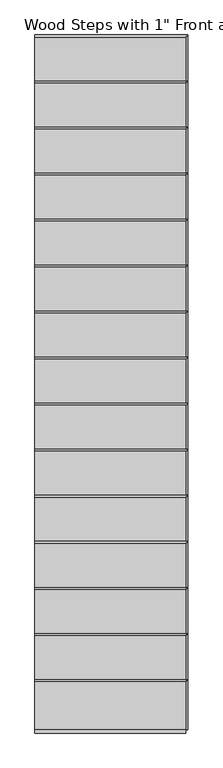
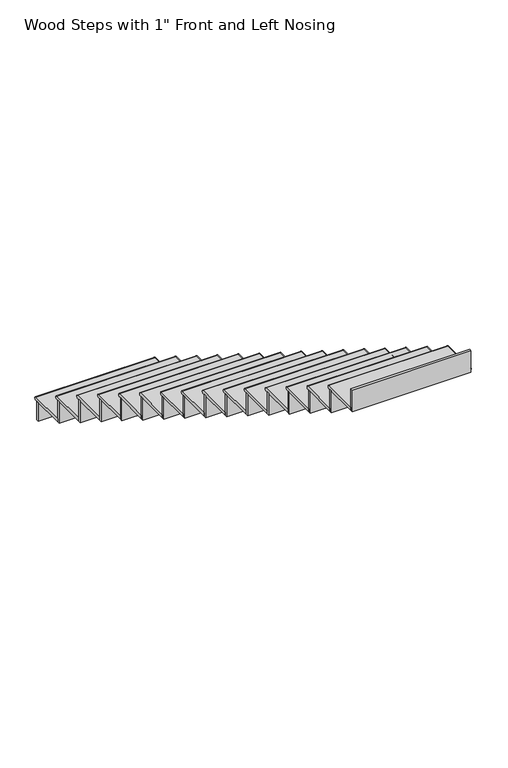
"""IFC4 building model written with IfcOpenShell, lengths in millimetres: stair flight geometry."""

import ifcopenshell
import ifcopenshell.guid

model = None  # the IFC model being written
_history = None  # IfcOwnerHistory: only IFC2X3 demands one
_inside = {}  # id of a spatial element -> (the spatial element, [elements in it])
_under = {}  # id of a project, library or spatial element -> (it, [spatial elements below it])
_declared = {}  # id of a project -> (the project, [libraries it declares])
_typed = {}  # id of a type object -> (the type object, [elements of that type])
_made_of = {}  # id of a material, layer set ... -> (it, [elements and type objects made of it])


def new_model(schema):
    """Start an empty IFC model of exactly this schema.

    Asked for "IFC4X3", IfcOpenShell would pick the latest addendum, in which some entities
    have other attributes; the version numbers below select the first issue.
    IFC2X3 requires an IfcOwnerHistory on every rooted entity: one is made here for all.
    """
    global model, _history
    if schema == "IFC4X3":
        model = ifcopenshell.file(schema_version=(4, 3, 0, 0))
    else:
        model = ifcopenshell.file(schema=schema)
    _inside.clear()
    _under.clear()
    _declared.clear()
    _typed.clear()
    _made_of.clear()
    _history = None
    if model.schema == "IFC2X3":
        org = make("IfcOrganization", Name="unknown")
        user = make(
            "IfcPersonAndOrganization",
            ThePerson=make("IfcPerson", FamilyName="unknown"),
            TheOrganization=org,
        )
        app = make(
            "IfcApplication",
            ApplicationDeveloper=org,
            Version="unknown",
            ApplicationFullName="unknown",
            ApplicationIdentifier="unknown",
        )
        _history = make(
            "IfcOwnerHistory",
            OwningUser=user,
            OwningApplication=app,
            ChangeAction="ADDED",
            CreationDate=0,
        )
    return model


def make(cls, **values):
    """One entity of the class cls with the attributes given. An attribute that is None is left unset."""
    return model.create_entity(
        cls, **{name: value for name, value in values.items() if value is not None}
    )


def rooted(cls, **values):
    """An entity with a GlobalId (a new one), such as an element, a storey or a relation."""
    return make(cls, GlobalId=ifcopenshell.guid.new(), OwnerHistory=_history, **values)


def si_unit(unit_type, name, prefix=None):
    """IfcSIUnit, for example si_unit("LENGTHUNIT", "METRE", prefix="MILLI")."""
    return make("IfcSIUnit", UnitType=unit_type, Prefix=prefix, Name=name)


def assignment(units):
    """IfcUnitAssignment: the units of a project."""
    return None if units is None else make("IfcUnitAssignment", Units=units)


def point(xyz):
    """IfcCartesianPoint."""
    return None if xyz is None else make("IfcCartesianPoint", Coordinates=xyz)


def direction(xyz):
    """IfcDirection."""
    return None if xyz is None else make("IfcDirection", DirectionRatios=xyz)


def frame(location, z_axis=None, x_axis=None):
    """IfcAxis2Placement3D, a coordinate frame: its origin and axes. An axis left out is left unset."""
    return make(
        "IfcAxis2Placement3D",
        Location=point(location),
        Axis=direction(z_axis),
        RefDirection=direction(x_axis),
    )


def origin():
    """The frame at (0, 0, 0) with its axes left unset."""
    return frame((0.0, 0.0, 0.0))


def place(relative_to, where):
    """IfcLocalPlacement: puts the frame where relative to a parent placement (None: the world)."""
    return make(
        "IfcLocalPlacement", PlacementRelTo=relative_to, RelativePlacement=where
    )


def context(
    kind, dimensions, precision=None, world=None, true_north=None, identifier=None
):
    """IfcGeometricRepresentationContext, for example the 3D "Model" context."""
    return make(
        "IfcGeometricRepresentationContext",
        ContextIdentifier=identifier,
        ContextType=kind,
        CoordinateSpaceDimension=dimensions,
        Precision=precision,
        WorldCoordinateSystem=world,
        TrueNorth=true_north,
    )


def project(units=None, contexts=None):
    """IfcProject with its units and contexts."""
    return rooted(
        "IfcProject",
        Name="project",
        RepresentationContexts=contexts,
        UnitsInContext=assignment(units),
    )


def spatial(cls, under=None, at=None, **own):
    """A site, building, storey or space (cls), placed at a placement, below another one or the project."""
    s = rooted(cls, ObjectPlacement=at, **own)
    if under is not None:
        _under.setdefault(under.id(), (under, []))[1].append(s)
    return s


def circle_curve(where, radius):
    """IfcCircle in the frame where."""
    return make("IfcCircle", Position=where, Radius=radius)


def ellipse_curve(where, semi_axis1, semi_axis2):
    """IfcEllipse in the frame where."""
    return make(
        "IfcEllipse", Position=where, SemiAxis1=semi_axis1, SemiAxis2=semi_axis2
    )


def faces_of(points, faces, orient=None, outer=None):
    """IfcFace entities. A face is a list of loops; a loop is a list of indices into points, from 0.

    orient and outer hold one flag for each loop. By default every Orientation is true, the
    first loop of a face is its IfcFaceOuterBound and the others are IfcFaceBound.
    """
    made = []
    for i, loops in enumerate(faces):
        bounds = []
        for j, loop in enumerate(loops):
            is_outer = j == 0 if outer is None else outer[i][j]
            bounds.append(
                make(
                    "IfcFaceOuterBound" if is_outer else "IfcFaceBound",
                    Bound=make("IfcPolyLoop", Polygon=[points[k] for k in loop]),
                    Orientation=True if orient is None else orient[i][j],
                )
            )
        made.append(make("IfcFace", Bounds=bounds))
    return made


def faceted_brep(points, faces, orient=None, outer=None, voids=None):
    """IfcFacetedBrep: a solid bounded by flat faces; with voids (closed shells), ...WithVoids."""
    shared = [point(p) for p in points]
    hull = make("IfcClosedShell", CfsFaces=faces_of(shared, faces, orient, outer))
    if voids is None:
        return make("IfcFacetedBrep", Outer=hull)
    return make(
        "IfcFacetedBrepWithVoids",
        Outer=hull,
        Voids=[
            make(cls, CfsFaces=faces_of(shared, fs, o, b)) for cls, fs, o, b in voids
        ],
    )


def shape(context_of_items, identifier, shape_type, items):
    """IfcShapeRepresentation: the items that make up one representation, for example the "Body"."""
    return make(
        "IfcShapeRepresentation",
        ContextOfItems=context_of_items,
        RepresentationIdentifier=identifier,
        RepresentationType=shape_type,
        Items=items,
    )


def source(mapping_origin, context_of_items, identifier, shape_type, items):
    """IfcRepresentationMap: a shape defined once, which mapped items show again and again."""
    return make(
        "IfcRepresentationMap",
        MappingOrigin=mapping_origin,
        MappedRepresentation=shape(context_of_items, identifier, shape_type, items),
    )


def transform(
    local_origin,
    x_axis=None,
    y_axis=None,
    z_axis=None,
    scale=None,
    scale2=None,
    scale3=None,
    uniform=True,
):
    """IfcCartesianTransformationOperator3D, or its non-uniform kind. x_axis, y_axis, z_axis: its Axis1, 2, 3."""
    if uniform:
        return make(
            "IfcCartesianTransformationOperator3D",
            Axis1=direction(x_axis),
            Axis2=direction(y_axis),
            LocalOrigin=point(local_origin),
            Scale=scale,
            Axis3=direction(z_axis),
        )
    return make(
        "IfcCartesianTransformationOperator3DnonUniform",
        Axis1=direction(x_axis),
        Axis2=direction(y_axis),
        LocalOrigin=point(local_origin),
        Scale=scale,
        Axis3=direction(z_axis),
        Scale2=scale2,
        Scale3=scale3,
    )


def mapped(mapping_source, mapping_target):
    """IfcMappedItem: shows the shape of a source again, moved by a transform."""
    return make(
        "IfcMappedItem", MappingSource=mapping_source, MappingTarget=mapping_target
    )


def made_of(thing, what):
    """Note that an element or type object is made of a material, layer set ...; save() writes the relation."""
    if what is not None:
        _made_of.setdefault(what.id(), (what, []))[1].append(thing)
    return thing


def element(
    cls,
    number,
    at=None,
    inside=None,
    cuts=None,
    type_object=None,
    material=None,
    context=None,
    identifier="Body",
    shape_type=None,
    held_by="IfcProductDefinitionShape",
    body=None,
    shapes=None,
    **own,
):
    """One element of the class cls, such as IfcWall. Its Tag is "e" and its number.

    at: its placement. inside: the storey or other place that contains it. cuts: it is an
    opening in that element (IfcRelVoidsElement). A single representation is given by context,
    identifier, shape_type and body (its items); several are given by shapes. held_by: the class
    of the entity that holds the representations. save() writes the other relations.
    """
    e = rooted(cls, Tag="e%d" % number, ObjectPlacement=at, **own)
    if body is not None:
        shapes = [shape(context, identifier, shape_type, body)]
    if shapes is not None:
        e.Representation = make(held_by, Representations=shapes)
    if inside is not None:
        _inside.setdefault(inside.id(), (inside, []))[1].append(e)
    if cuts is not None:
        rooted(
            "IfcRelVoidsElement", RelatingBuildingElement=cuts, RelatedOpeningElement=e
        )
    if type_object is not None:
        _typed.setdefault(type_object.id(), (type_object, []))[1].append(e)
    return made_of(e, material)


def aggregate(whole, parts):
    """IfcRelAggregates: a whole, such as a stair, and the parts it consists of."""
    return rooted("IfcRelAggregates", RelatingObject=whole, RelatedObjects=parts)


def save(model, path):
    """Write the relations noted so far, then the file.

    IfcRelAggregates (storeys below a building ...), IfcRelContainedInSpatialStructure (elements
    in a storey), IfcRelDefinesByType, IfcRelAssociatesMaterial and IfcRelDeclares: one each for
    every whole, place, type object, material and project.
    """
    for whole, parts in _under.values():
        aggregate(whole, parts)
    for where, things in _inside.values():
        rooted(
            "IfcRelContainedInSpatialStructure",
            RelatedElements=things,
            RelatingStructure=where,
        )
    for kind, things in _typed.values():
        rooted("IfcRelDefinesByType", RelatedObjects=things, RelatingType=kind)
    for what, things in _made_of.values():
        rooted("IfcRelAssociatesMaterial", RelatedObjects=things, RelatingMaterial=what)
    for by, libraries in _declared.values():
        rooted("IfcRelDeclares", RelatingContext=by, RelatedDefinitions=libraries)
    model.write(path)


def plane_surface(at):
    """IfcPlane: the flat surface through the origin of the frame at, square to its z axis."""
    return make("IfcPlane", Position=at)


def cylinder_surface(at, radius):
    """IfcCylindricalSurface: all points at the distance radius from the z axis of the frame at."""
    return make("IfcCylindricalSurface", Position=at, Radius=radius)


def advanced_brep(points, edges, surfaces, faces):
    """IfcAdvancedBrep: a solid bounded by faces that lie on surfaces and meet in shared edges.

    An edge is (start, end): straight between two places in points (the first is 0);
    or (start, end, curve); or (start, end, curve, False) where it runs against its curve.
    A face is (place in surfaces, loops), or (place, loops, False) where it looks against
    its surface's normal. A loop lists edges by number (the first is 1), with a minus sign
    where the edge is run from its end to its start. The first loop is the outer one.
    """
    corners = [point(p) for p in points]
    vertices = [make("IfcVertexPoint", VertexGeometry=c) for c in corners]
    made = []
    for start, end, *more in edges:
        made.append(
            make(
                "IfcEdgeCurve",
                EdgeStart=vertices[start],
                EdgeEnd=vertices[end],
                EdgeGeometry=more[0] if more else make("IfcPolyline", Points=[corners[start], corners[end]]),
                SameSense=more[1] if len(more) > 1 else True,
            )
        )
    hull = []
    for where, loops, *sense in faces:
        bounds = []
        for j, loop in enumerate(loops):
            ring = [make("IfcOrientedEdge", EdgeElement=made[abs(k) - 1], Orientation=k > 0) for k in loop]
            bounds.append(
                make(
                    "IfcFaceOuterBound" if j == 0 else "IfcFaceBound",
                    Bound=make("IfcEdgeLoop", EdgeList=ring),
                    Orientation=True,
                )
            )
        hull.append(make("IfcAdvancedFace", Bounds=bounds, FaceSurface=surfaces[where], SameSense=sense[0] if sense else True))
    return make("IfcAdvancedBrep", Outer=make("IfcClosedShell", CfsFaces=hull))


def stair_flight_b54795dc(model_context):
    return source(origin(), model_context, "Body", "SolidModel", [
        advanced_brep(
        [(-6227.1730992, 2449.2922697, -2668.5875), (-6227.1730992, 2449.2922697, -2643.1875), (-5312.7730992, 2449.2922697, -2643.1875), (-5312.7730992, 2449.2922697, -2668.5875), (-6227.1730992, 2157.1922697, -2643.1875), (-5312.7730992, 2157.1922697, -2643.1875), (-6227.1730992, 2157.1922697, -2668.5875), (-5312.7730992, 2157.1922697, -2668.5875)],
        [
            (0, 1, circle_curve(frame((-6227.1730992, 2449.2922697, -2655.8875), z_axis=(1.0, 0.0, 0.0), x_axis=(0.0, -1.0, 0.0)), 12.7)),
            (1, 2),
            (2, 3, ellipse_curve(frame((-5312.7730992, 2449.2922697, -2655.8875), z_axis=(-0.7071067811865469, 0.707106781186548, 0.0), x_axis=(-0.7071067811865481, -0.7071067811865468, 0.0)), 17.9605122, 12.7)),
            (3, 0),
            (1, 4),
            (4, 5),
            (5, 2),
            (6, 0),
            (3, 7),
            (7, 6),
            (6, 4),
            (7, 5, circle_curve(frame((-5312.7730992, 2157.1922697, -2655.8875), z_axis=(0.0, -1.0, 0.0), x_axis=(-1.0, 0.0, 0.0)), 12.7)),
        ],
        [
            cylinder_surface(frame((-6227.1730992, 2449.2922697, -2655.8875), z_axis=(-1.0, 0.0, 0.0), x_axis=(0.0, -1.0, 0.0)), 12.7),
            plane_surface(frame((-5312.7730992, 2461.9922697, -2643.1875), z_axis=(0.0, 0.0, 1.0), x_axis=(0.0, 1.0, 0.0))),
            plane_surface(frame((-5312.7730992, 2461.9922697, -2668.5875), z_axis=(0.0, 0.0, -1.0), x_axis=(0.0, -1.0, 0.0))),
            plane_surface(frame((-6227.1730992, 2449.2922697, -2643.1875), z_axis=(-1.0, 0.0, 0.0), x_axis=(0.0, 0.0, -1.0))),
            plane_surface(frame((-6227.1730992, 2157.1922697, -2643.1875), z_axis=(0.0, -1.0, 0.0), x_axis=(0.0, 0.0, -1.0))),
            cylinder_surface(frame((-5312.7730992, 2449.2922697, -2655.8875), z_axis=(0.0, 1.0, 0.0), x_axis=(-1.0, 0.0, 0.0)), 12.7),
        ],
        [
            (0, [[1, 2, 3, 4]]),
            (1, [[5, 6, 7, -2]]),
            (2, [[8, -4, 9, 10]]),
            (3, [[-5, -1, -8, 11]]),
            (4, [[-6, -11, -10, 12]]),
            (5, [[-3, -7, -12, -9]]),
        ],
    ),
        faceted_brep([(-6227.1730992, 2436.5922697, -2668.5875), (-6227.1730992, 2436.5922697, -2819.4), (-6227.1730992, 2417.5422697, -2819.4), (-6227.1730992, 2417.5422697, -2668.5875), (-5312.7730992, 2436.5922697, -2668.5875), (-5312.7730992, 2417.5422697, -2668.5875), (-5312.7730992, 2417.5422697, -2819.4), (-5312.7730992, 2436.5922697, -2819.4)], [[[0, 1, 2, 3]], [[4, 5, 6, 7]], [[1, 0, 4, 7]], [[2, 1, 7, 6]], [[3, 2, 6, 5]], [[0, 3, 5, 4]]]),
        faceted_brep([(-6227.1730992, 2157.1922697, -2492.375), (-6227.1730992, 2157.1922697, -2668.5875), (-6227.1730992, 2138.1422697, -2668.5875), (-6227.1730992, 2138.1422697, -2492.375), (-5312.7730992, 2157.1922697, -2492.375), (-5312.7730992, 2138.1422697, -2492.375), (-5312.7730992, 2138.1422697, -2668.5875), (-5312.7730992, 2157.1922697, -2668.5875)], [[[0, 1, 2, 3]], [[4, 5, 6, 7]], [[1, 0, 4, 7]], [[2, 1, 7, 6]], [[3, 2, 6, 5]], [[0, 3, 5, 4]]]),
        advanced_brep(
        [(-6227.1730992, 2169.8922697, -2466.975), (-6227.1730992, 1877.7922697, -2466.975), (-5312.7730992, 1877.7922697, -2466.975), (-5312.7730992, 2169.8922697, -2466.975), (-6227.1730992, 1877.7922697, -2492.375), (-6227.1730992, 2169.8922697, -2492.375), (-5312.7730992, 2169.8922697, -2492.375), (-5312.7730992, 1877.7922697, -2492.375)],
        [
            (0, 1),
            (1, 2),
            (2, 3),
            (3, 0),
            (4, 5),
            (5, 6),
            (6, 7),
            (7, 4),
            (1, 4),
            (7, 2, circle_curve(frame((-5312.7730992, 1877.7922697, -2479.675), z_axis=(0.0, -1.0, 0.0), x_axis=(-1.0, 0.0, 0.0)), 12.7)),
            (5, 0, circle_curve(frame((-6227.1730992, 2169.8922697, -2479.675), z_axis=(1.0, 0.0, 0.0), x_axis=(0.0, -1.0, 0.0)), 12.7)),
            (3, 6, ellipse_curve(frame((-5312.7730992, 2169.8922697, -2479.675), z_axis=(-0.7071067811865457, 0.7071067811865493, 0.0), x_axis=(-0.7071067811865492, -0.7071067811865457, 0.0)), 17.9605122, 12.7)),
        ],
        [
            plane_surface(frame((-5312.7730992, 2461.9922697, -2466.975), z_axis=(0.0, 0.0, 1.0), x_axis=(0.0, 1.0, 0.0))),
            plane_surface(frame((-5312.7730992, 2461.9922697, -2492.375), z_axis=(0.0, 0.0, -1.0), x_axis=(0.0, -1.0, 0.0))),
            plane_surface(frame((-6227.1730992, 1877.7922697, -2466.975), z_axis=(0.0, -1.0, 0.0), x_axis=(0.0, 0.0, -1.0))),
            cylinder_surface(frame((-6227.1730992, 2169.8922697, -2479.675), z_axis=(-1.0, 0.0, 0.0), x_axis=(0.0, -1.0, 0.0)), 12.7),
            cylinder_surface(frame((-5312.7730992, 2169.8922697, -2479.675), z_axis=(0.0, 1.0, 0.0), x_axis=(-1.0, 0.0, 0.0)), 12.7),
            plane_surface(frame((-6227.1730992, 2169.8922697, -2466.975), z_axis=(-1.0, 0.0, 0.0), x_axis=(0.0, 0.0, -1.0))),
        ],
        [
            (0, [[1, 2, 3, 4]]),
            (1, [[5, 6, 7, 8]]),
            (2, [[-2, 9, -8, 10]]),
            (3, [[11, -4, 12, -6]]),
            (4, [[-12, -3, -10, -7]]),
            (5, [[-1, -11, -5, -9]]),
        ],
    ),
        faceted_brep([(-6227.1730992, 1877.7922697, -2316.1625), (-6227.1730992, 1877.7922697, -2492.375), (-6227.1730992, 1858.7422697, -2492.375), (-6227.1730992, 1858.7422697, -2316.1625), (-5312.7730992, 1877.7922697, -2316.1625), (-5312.7730992, 1858.7422697, -2316.1625), (-5312.7730992, 1858.7422697, -2492.375), (-5312.7730992, 1877.7922697, -2492.375)], [[[0, 1, 2, 3]], [[4, 5, 6, 7]], [[1, 0, 4, 7]], [[2, 1, 7, 6]], [[3, 2, 6, 5]], [[0, 3, 5, 4]]]),
        advanced_brep(
        [(-6227.1730992, 1890.4922697, -2290.7625), (-6227.1730992, 1598.3922697, -2290.7625), (-5312.7730992, 1598.3922697, -2290.7625), (-5312.7730992, 1890.4922697, -2290.7625), (-6227.1730992, 1598.3922697, -2316.1625), (-6227.1730992, 1890.4922697, -2316.1625), (-5312.7730992, 1890.4922697, -2316.1625), (-5312.7730992, 1598.3922697, -2316.1625)],
        [
            (0, 1),
            (1, 2),
            (2, 3),
            (3, 0),
            (4, 5),
            (5, 6),
            (6, 7),
            (7, 4),
            (1, 4),
            (7, 2, circle_curve(frame((-5312.7730992, 1598.3922697, -2303.4625), z_axis=(0.0, -1.0, 0.0), x_axis=(-1.0, 0.0, 0.0)), 12.7)),
            (5, 0, circle_curve(frame((-6227.1730992, 1890.4922697, -2303.4625), z_axis=(1.0, 0.0, 0.0), x_axis=(0.0, -1.0, 0.0)), 12.7)),
            (3, 6, ellipse_curve(frame((-5312.7730992, 1890.4922697, -2303.4625), z_axis=(-0.7071067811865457, 0.7071067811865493, 0.0), x_axis=(-0.7071067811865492, -0.7071067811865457, 0.0)), 17.9605122, 12.7)),
        ],
        [
            plane_surface(frame((-5312.7730992, 2182.5922697, -2290.7625), z_axis=(0.0, 0.0, 1.0), x_axis=(0.0, 1.0, 0.0))),
            plane_surface(frame((-5312.7730992, 2182.5922697, -2316.1625), z_axis=(0.0, 0.0, -1.0), x_axis=(0.0, -1.0, 0.0))),
            plane_surface(frame((-6227.1730992, 1598.3922697, -2290.7625), z_axis=(0.0, -1.0, 0.0), x_axis=(0.0, 0.0, -1.0))),
            cylinder_surface(frame((-6227.1730992, 1890.4922697, -2303.4625), z_axis=(-1.0, 0.0, 0.0), x_axis=(0.0, -1.0, 0.0)), 12.7),
            cylinder_surface(frame((-5312.7730992, 1890.4922697, -2303.4625), z_axis=(0.0, 1.0, 0.0), x_axis=(-1.0, 0.0, 0.0)), 12.7),
            plane_surface(frame((-6227.1730992, 1890.4922697, -2290.7625), z_axis=(-1.0, 0.0, 0.0), x_axis=(0.0, 0.0, -1.0))),
        ],
        [
            (0, [[1, 2, 3, 4]]),
            (1, [[5, 6, 7, 8]]),
            (2, [[-2, 9, -8, 10]]),
            (3, [[11, -4, 12, -6]]),
            (4, [[-12, -3, -10, -7]]),
            (5, [[-1, -11, -5, -9]]),
        ],
    ),
        faceted_brep([(-6227.1730992, 1598.3922697, -2139.95), (-6227.1730992, 1598.3922697, -2316.1625), (-6227.1730992, 1579.3422697, -2316.1625), (-6227.1730992, 1579.3422697, -2139.95), (-5312.7730992, 1598.3922697, -2139.95), (-5312.7730992, 1579.3422697, -2139.95), (-5312.7730992, 1579.3422697, -2316.1625), (-5312.7730992, 1598.3922697, -2316.1625)], [[[0, 1, 2, 3]], [[4, 5, 6, 7]], [[1, 0, 4, 7]], [[2, 1, 7, 6]], [[3, 2, 6, 5]], [[0, 3, 5, 4]]]),
        advanced_brep(
        [(-6227.1730992, 1611.0922697, -2114.55), (-6227.1730992, 1318.9922697, -2114.55), (-5312.7730992, 1318.9922697, -2114.55), (-5312.7730992, 1611.0922697, -2114.55), (-6227.1730992, 1318.9922697, -2139.95), (-6227.1730992, 1611.0922697, -2139.95), (-5312.7730992, 1611.0922697, -2139.95), (-5312.7730992, 1318.9922697, -2139.95)],
        [
            (0, 1),
            (1, 2),
            (2, 3),
            (3, 0),
            (4, 5),
            (5, 6),
            (6, 7),
            (7, 4),
            (1, 4),
            (7, 2, circle_curve(frame((-5312.7730992, 1318.9922697, -2127.25), z_axis=(0.0, -1.0, 0.0), x_axis=(-1.0, 0.0, 0.0)), 12.7)),
            (5, 0, circle_curve(frame((-6227.1730992, 1611.0922697, -2127.25), z_axis=(1.0, 0.0, 0.0), x_axis=(0.0, -1.0, 0.0)), 12.7)),
            (3, 6, ellipse_curve(frame((-5312.7730992, 1611.0922697, -2127.25), z_axis=(-0.7071067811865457, 0.7071067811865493, 0.0), x_axis=(-0.7071067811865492, -0.7071067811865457, 0.0)), 17.9605122, 12.7)),
        ],
        [
            plane_surface(frame((-5312.7730992, 1903.1922697, -2114.55), z_axis=(0.0, 0.0, 1.0), x_axis=(0.0, 1.0, 0.0))),
            plane_surface(frame((-5312.7730992, 1903.1922697, -2139.95), z_axis=(0.0, 0.0, -1.0), x_axis=(0.0, -1.0, 0.0))),
            plane_surface(frame((-6227.1730992, 1318.9922697, -2114.55), z_axis=(0.0, -1.0, 0.0), x_axis=(0.0, 0.0, -1.0))),
            cylinder_surface(frame((-6227.1730992, 1611.0922697, -2127.25), z_axis=(-1.0, 0.0, 0.0), x_axis=(0.0, -1.0, 0.0)), 12.7),
            cylinder_surface(frame((-5312.7730992, 1611.0922697, -2127.25), z_axis=(0.0, 1.0, 0.0), x_axis=(-1.0, 0.0, 0.0)), 12.7),
            plane_surface(frame((-6227.1730992, 1611.0922697, -2114.55), z_axis=(-1.0, 0.0, 0.0), x_axis=(0.0, 0.0, -1.0))),
        ],
        [
            (0, [[1, 2, 3, 4]]),
            (1, [[5, 6, 7, 8]]),
            (2, [[-2, 9, -8, 10]]),
            (3, [[11, -4, 12, -6]]),
            (4, [[-12, -3, -10, -7]]),
            (5, [[-1, -11, -5, -9]]),
        ],
    ),
        faceted_brep([(-6227.1730992, 1318.9922697, -1963.7375), (-6227.1730992, 1318.9922697, -2139.95), (-6227.1730992, 1299.9422697, -2139.95), (-6227.1730992, 1299.9422697, -1963.7375), (-5312.7730992, 1318.9922697, -1963.7375), (-5312.7730992, 1299.9422697, -1963.7375), (-5312.7730992, 1299.9422697, -2139.95), (-5312.7730992, 1318.9922697, -2139.95)], [[[0, 1, 2, 3]], [[4, 5, 6, 7]], [[1, 0, 4, 7]], [[2, 1, 7, 6]], [[3, 2, 6, 5]], [[0, 3, 5, 4]]]),
        advanced_brep(
        [(-6227.1730992, 1331.6922697, -1938.3375), (-6227.1730992, 1039.5922697, -1938.3375), (-5312.7730992, 1039.5922697, -1938.3375), (-5312.7730992, 1331.6922697, -1938.3375), (-6227.1730992, 1039.5922697, -1963.7375), (-6227.1730992, 1331.6922697, -1963.7375), (-5312.7730992, 1331.6922697, -1963.7375), (-5312.7730992, 1039.5922697, -1963.7375)],
        [
            (0, 1),
            (1, 2),
            (2, 3),
            (3, 0),
            (4, 5),
            (5, 6),
            (6, 7),
            (7, 4),
            (1, 4),
            (7, 2, circle_curve(frame((-5312.7730992, 1039.5922697, -1951.0375), z_axis=(0.0, -1.0, 0.0), x_axis=(-1.0, 0.0, 0.0)), 12.7)),
            (5, 0, circle_curve(frame((-6227.1730992, 1331.6922697, -1951.0375), z_axis=(1.0, 0.0, 0.0), x_axis=(0.0, -1.0, 0.0)), 12.7)),
            (3, 6, ellipse_curve(frame((-5312.7730992, 1331.6922697, -1951.0375), z_axis=(-0.7071067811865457, 0.7071067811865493, 0.0), x_axis=(-0.7071067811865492, -0.7071067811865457, 0.0)), 17.9605122, 12.7)),
        ],
        [
            plane_surface(frame((-5312.7730992, 1623.7922697, -1938.3375), z_axis=(0.0, 0.0, 1.0), x_axis=(0.0, 1.0, 0.0))),
            plane_surface(frame((-5312.7730992, 1623.7922697, -1963.7375), z_axis=(0.0, 0.0, -1.0), x_axis=(0.0, -1.0, 0.0))),
            plane_surface(frame((-6227.1730992, 1039.5922697, -1938.3375), z_axis=(0.0, -1.0, 0.0), x_axis=(0.0, 0.0, -1.0))),
            cylinder_surface(frame((-6227.1730992, 1331.6922697, -1951.0375), z_axis=(-1.0, 0.0, 0.0), x_axis=(0.0, -1.0, 0.0)), 12.7),
            cylinder_surface(frame((-5312.7730992, 1331.6922697, -1951.0375), z_axis=(0.0, 1.0, 0.0), x_axis=(-1.0, 0.0, 0.0)), 12.7),
            plane_surface(frame((-6227.1730992, 1331.6922697, -1938.3375), z_axis=(-1.0, 0.0, 0.0), x_axis=(0.0, 0.0, -1.0))),
        ],
        [
            (0, [[1, 2, 3, 4]]),
            (1, [[5, 6, 7, 8]]),
            (2, [[-2, 9, -8, 10]]),
            (3, [[11, -4, 12, -6]]),
            (4, [[-12, -3, -10, -7]]),
            (5, [[-1, -11, -5, -9]]),
        ],
    ),
        faceted_brep([(-6227.1730992, 1039.5922697, -1787.525), (-6227.1730992, 1039.5922697, -1963.7375), (-6227.1730992, 1020.5422697, -1963.7375), (-6227.1730992, 1020.5422697, -1787.525), (-5312.7730992, 1039.5922697, -1787.525), (-5312.7730992, 1020.5422697, -1787.525), (-5312.7730992, 1020.5422697, -1963.7375), (-5312.7730992, 1039.5922697, -1963.7375)], [[[0, 1, 2, 3]], [[4, 5, 6, 7]], [[1, 0, 4, 7]], [[2, 1, 7, 6]], [[3, 2, 6, 5]], [[0, 3, 5, 4]]]),
        advanced_brep(
        [(-6227.1730992, 1052.2922697, -1762.125), (-6227.1730992, 760.1922697, -1762.125), (-5312.7730992, 760.1922697, -1762.125), (-5312.7730992, 1052.2922697, -1762.125), (-6227.1730992, 760.1922697, -1787.525), (-6227.1730992, 1052.2922697, -1787.525), (-5312.7730992, 1052.2922697, -1787.525), (-5312.7730992, 760.1922697, -1787.525)],
        [
            (0, 1),
            (1, 2),
            (2, 3),
            (3, 0),
            (4, 5),
            (5, 6),
            (6, 7),
            (7, 4),
            (1, 4),
            (7, 2, circle_curve(frame((-5312.7730992, 760.1922697, -1774.825), z_axis=(0.0, -1.0, 0.0), x_axis=(-1.0, 0.0, 0.0)), 12.7)),
            (5, 0, circle_curve(frame((-6227.1730992, 1052.2922697, -1774.825), z_axis=(1.0, 0.0, 0.0), x_axis=(0.0, -1.0, 0.0)), 12.7)),
            (3, 6, ellipse_curve(frame((-5312.7730992, 1052.2922697, -1774.825), z_axis=(-0.7071067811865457, 0.7071067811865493, 0.0), x_axis=(-0.7071067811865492, -0.7071067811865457, 0.0)), 17.9605122, 12.7)),
        ],
        [
            plane_surface(frame((-5312.7730992, 1344.3922697, -1762.125), z_axis=(0.0, 0.0, 1.0), x_axis=(0.0, 1.0, 0.0))),
            plane_surface(frame((-5312.7730992, 1344.3922697, -1787.525), z_axis=(0.0, 0.0, -1.0), x_axis=(0.0, -1.0, 0.0))),
            plane_surface(frame((-6227.1730992, 760.1922697, -1762.125), z_axis=(0.0, -1.0, 0.0), x_axis=(0.0, 0.0, -1.0))),
            cylinder_surface(frame((-6227.1730992, 1052.2922697, -1774.825), z_axis=(-1.0, 0.0, 0.0), x_axis=(0.0, -1.0, 0.0)), 12.7),
            cylinder_surface(frame((-5312.7730992, 1052.2922697, -1774.825), z_axis=(0.0, 1.0, 0.0), x_axis=(-1.0, 0.0, 0.0)), 12.7),
            plane_surface(frame((-6227.1730992, 1052.2922697, -1762.125), z_axis=(-1.0, 0.0, 0.0), x_axis=(0.0, 0.0, -1.0))),
        ],
        [
            (0, [[1, 2, 3, 4]]),
            (1, [[5, 6, 7, 8]]),
            (2, [[-2, 9, -8, 10]]),
            (3, [[11, -4, 12, -6]]),
            (4, [[-12, -3, -10, -7]]),
            (5, [[-1, -11, -5, -9]]),
        ],
    ),
        faceted_brep([(-6227.1730992, 760.1922697, -1611.3125), (-6227.1730992, 760.1922697, -1787.525), (-6227.1730992, 741.1422697, -1787.525), (-6227.1730992, 741.1422697, -1611.3125), (-5312.7730992, 760.1922697, -1611.3125), (-5312.7730992, 741.1422697, -1611.3125), (-5312.7730992, 741.1422697, -1787.525), (-5312.7730992, 760.1922697, -1787.525)], [[[0, 1, 2, 3]], [[4, 5, 6, 7]], [[1, 0, 4, 7]], [[2, 1, 7, 6]], [[3, 2, 6, 5]], [[0, 3, 5, 4]]]),
        advanced_brep(
        [(-6227.1730992, 772.8922697, -1585.9125), (-6227.1730992, 480.7922697, -1585.9125), (-5312.7730992, 480.7922697, -1585.9125), (-5312.7730992, 772.8922697, -1585.9125), (-6227.1730992, 480.7922697, -1611.3125), (-6227.1730992, 772.8922697, -1611.3125), (-5312.7730992, 772.8922697, -1611.3125), (-5312.7730992, 480.7922697, -1611.3125)],
        [
            (0, 1),
            (1, 2),
            (2, 3),
            (3, 0),
            (4, 5),
            (5, 6),
            (6, 7),
            (7, 4),
            (1, 4),
            (7, 2, circle_curve(frame((-5312.7730992, 480.7922697, -1598.6125), z_axis=(0.0, -1.0, 0.0), x_axis=(-1.0, 0.0, 0.0)), 12.7)),
            (5, 0, circle_curve(frame((-6227.1730992, 772.8922697, -1598.6125), z_axis=(1.0, 0.0, 0.0), x_axis=(0.0, -1.0, 0.0)), 12.7)),
            (3, 6, ellipse_curve(frame((-5312.7730992, 772.8922697, -1598.6125), z_axis=(-0.7071067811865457, 0.7071067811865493, 0.0), x_axis=(-0.7071067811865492, -0.7071067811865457, 0.0)), 17.9605122, 12.7)),
        ],
        [
            plane_surface(frame((-5312.7730992, 1064.9922697, -1585.9125), z_axis=(0.0, 0.0, 1.0), x_axis=(0.0, 1.0, 0.0))),
            plane_surface(frame((-5312.7730992, 1064.9922697, -1611.3125), z_axis=(0.0, 0.0, -1.0), x_axis=(0.0, -1.0, 0.0))),
            plane_surface(frame((-6227.1730992, 480.7922697, -1585.9125), z_axis=(0.0, -1.0, 0.0), x_axis=(0.0, 0.0, -1.0))),
            cylinder_surface(frame((-6227.1730992, 772.8922697, -1598.6125), z_axis=(-1.0, 0.0, 0.0), x_axis=(0.0, -1.0, 0.0)), 12.7),
            cylinder_surface(frame((-5312.7730992, 772.8922697, -1598.6125), z_axis=(0.0, 1.0, 0.0), x_axis=(-1.0, 0.0, 0.0)), 12.7),
            plane_surface(frame((-6227.1730992, 772.8922697, -1585.9125), z_axis=(-1.0, 0.0, 0.0), x_axis=(0.0, 0.0, -1.0))),
        ],
        [
            (0, [[1, 2, 3, 4]]),
            (1, [[5, 6, 7, 8]]),
            (2, [[-2, 9, -8, 10]]),
            (3, [[11, -4, 12, -6]]),
            (4, [[-12, -3, -10, -7]]),
            (5, [[-1, -11, -5, -9]]),
        ],
    ),
        faceted_brep([(-6227.1730992, 480.7922697, -1435.1), (-6227.1730992, 480.7922697, -1611.3125), (-6227.1730992, 461.7422697, -1611.3125), (-6227.1730992, 461.7422697, -1435.1), (-5312.7730992, 480.7922697, -1435.1), (-5312.7730992, 461.7422697, -1435.1), (-5312.7730992, 461.7422697, -1611.3125), (-5312.7730992, 480.7922697, -1611.3125)], [[[0, 1, 2, 3]], [[4, 5, 6, 7]], [[1, 0, 4, 7]], [[2, 1, 7, 6]], [[3, 2, 6, 5]], [[0, 3, 5, 4]]]),
        advanced_brep(
        [(-6227.1730992, 493.4922697, -1409.7), (-6227.1730992, 201.3922697, -1409.7), (-5312.7730992, 201.3922697, -1409.7), (-5312.7730992, 493.4922697, -1409.7), (-6227.1730992, 201.3922697, -1435.1), (-6227.1730992, 493.4922697, -1435.1), (-5312.7730992, 493.4922697, -1435.1), (-5312.7730992, 201.3922697, -1435.1)],
        [
            (0, 1),
            (1, 2),
            (2, 3),
            (3, 0),
            (4, 5),
            (5, 6),
            (6, 7),
            (7, 4),
            (1, 4),
            (7, 2, circle_curve(frame((-5312.7730992, 201.3922697, -1422.4), z_axis=(0.0, -1.0, 0.0), x_axis=(-1.0, 0.0, 0.0)), 12.7)),
            (5, 0, circle_curve(frame((-6227.1730992, 493.4922697, -1422.4), z_axis=(1.0, 0.0, 0.0), x_axis=(0.0, -1.0, 0.0)), 12.7)),
            (3, 6, ellipse_curve(frame((-5312.7730992, 493.4922697, -1422.4), z_axis=(-0.7071067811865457, 0.7071067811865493, 0.0), x_axis=(-0.7071067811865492, -0.7071067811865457, 0.0)), 17.9605122, 12.7)),
        ],
        [
            plane_surface(frame((-5312.7730992, 785.5922697, -1409.7), z_axis=(0.0, 0.0, 1.0), x_axis=(0.0, 1.0, 0.0))),
            plane_surface(frame((-5312.7730992, 785.5922697, -1435.1), z_axis=(0.0, 0.0, -1.0), x_axis=(0.0, -1.0, 0.0))),
            plane_surface(frame((-6227.1730992, 201.3922697, -1409.7), z_axis=(0.0, -1.0, 0.0), x_axis=(0.0, 0.0, -1.0))),
            cylinder_surface(frame((-6227.1730992, 493.4922697, -1422.4), z_axis=(-1.0, 0.0, 0.0), x_axis=(0.0, -1.0, 0.0)), 12.7),
            cylinder_surface(frame((-5312.7730992, 493.4922697, -1422.4), z_axis=(0.0, 1.0, 0.0), x_axis=(-1.0, 0.0, 0.0)), 12.7),
            plane_surface(frame((-6227.1730992, 493.4922697, -1409.7), z_axis=(-1.0, 0.0, 0.0), x_axis=(0.0, 0.0, -1.0))),
        ],
        [
            (0, [[1, 2, 3, 4]]),
            (1, [[5, 6, 7, 8]]),
            (2, [[-2, 9, -8, 10]]),
            (3, [[11, -4, 12, -6]]),
            (4, [[-12, -3, -10, -7]]),
            (5, [[-1, -11, -5, -9]]),
        ],
    ),
        faceted_brep([(-6227.1730992, 201.3922697, -1258.8875), (-6227.1730992, 201.3922697, -1435.1), (-6227.1730992, 182.3422697, -1435.1), (-6227.1730992, 182.3422697, -1258.8875), (-5312.7730992, 201.3922697, -1258.8875), (-5312.7730992, 182.3422697, -1258.8875), (-5312.7730992, 182.3422697, -1435.1), (-5312.7730992, 201.3922697, -1435.1)], [[[0, 1, 2, 3]], [[4, 5, 6, 7]], [[1, 0, 4, 7]], [[2, 1, 7, 6]], [[3, 2, 6, 5]], [[0, 3, 5, 4]]]),
        advanced_brep(
        [(-6227.1730992, 214.0922697, -1233.4875), (-6227.1730992, -78.0077303, -1233.4875), (-5312.7730992, -78.0077303, -1233.4875), (-5312.7730992, 214.0922697, -1233.4875), (-6227.1730992, -78.0077303, -1258.8875), (-6227.1730992, 214.0922697, -1258.8875), (-5312.7730992, 214.0922697, -1258.8875), (-5312.7730992, -78.0077303, -1258.8875)],
        [
            (0, 1),
            (1, 2),
            (2, 3),
            (3, 0),
            (4, 5),
            (5, 6),
            (6, 7),
            (7, 4),
            (1, 4),
            (7, 2, circle_curve(frame((-5312.7730992, -78.0077303, -1246.1875), z_axis=(0.0, -1.0, 0.0), x_axis=(-1.0, 0.0, 0.0)), 12.7)),
            (5, 0, circle_curve(frame((-6227.1730992, 214.0922697, -1246.1875), z_axis=(1.0, 0.0, 0.0), x_axis=(0.0, -1.0, 0.0)), 12.7)),
            (3, 6, ellipse_curve(frame((-5312.7730992, 214.0922697, -1246.1875), z_axis=(-0.7071067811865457, 0.7071067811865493, 0.0), x_axis=(-0.7071067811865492, -0.7071067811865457, 0.0)), 17.9605122, 12.7)),
        ],
        [
            plane_surface(frame((-5312.7730992, 506.1922697, -1233.4875), z_axis=(0.0, 0.0, 1.0), x_axis=(0.0, 1.0, 0.0))),
            plane_surface(frame((-5312.7730992, 506.1922697, -1258.8875), z_axis=(0.0, 0.0, -1.0), x_axis=(0.0, -1.0, 0.0))),
            plane_surface(frame((-6227.1730992, -78.0077303, -1233.4875), z_axis=(0.0, -1.0, 0.0), x_axis=(0.0, 0.0, -1.0))),
            cylinder_surface(frame((-6227.1730992, 214.0922697, -1246.1875), z_axis=(-1.0, 0.0, 0.0), x_axis=(0.0, -1.0, 0.0)), 12.7),
            cylinder_surface(frame((-5312.7730992, 214.0922697, -1246.1875), z_axis=(0.0, 1.0, 0.0), x_axis=(-1.0, 0.0, 0.0)), 12.7),
            plane_surface(frame((-6227.1730992, 214.0922697, -1233.4875), z_axis=(-1.0, 0.0, 0.0), x_axis=(0.0, 0.0, -1.0))),
        ],
        [
            (0, [[1, 2, 3, 4]]),
            (1, [[5, 6, 7, 8]]),
            (2, [[-2, 9, -8, 10]]),
            (3, [[11, -4, 12, -6]]),
            (4, [[-12, -3, -10, -7]]),
            (5, [[-1, -11, -5, -9]]),
        ],
    ),
        faceted_brep([(-6227.1730992, -78.0077303, -1082.675), (-6227.1730992, -78.0077303, -1258.8875), (-6227.1730992, -97.0577303, -1258.8875), (-6227.1730992, -97.0577303, -1082.675), (-5312.7730992, -78.0077303, -1082.675), (-5312.7730992, -97.0577303, -1082.675), (-5312.7730992, -97.0577303, -1258.8875), (-5312.7730992, -78.0077303, -1258.8875)], [[[0, 1, 2, 3]], [[4, 5, 6, 7]], [[1, 0, 4, 7]], [[2, 1, 7, 6]], [[3, 2, 6, 5]], [[0, 3, 5, 4]]]),
        advanced_brep(
        [(-6227.1730992, -65.3077303, -1057.275), (-6227.1730992, -357.4077303, -1057.275), (-5312.7730992, -357.4077303, -1057.275), (-5312.7730992, -65.3077303, -1057.275), (-6227.1730992, -357.4077303, -1082.675), (-6227.1730992, -65.3077303, -1082.675), (-5312.7730992, -65.3077303, -1082.675), (-5312.7730992, -357.4077303, -1082.675)],
        [
            (0, 1),
            (1, 2),
            (2, 3),
            (3, 0),
            (4, 5),
            (5, 6),
            (6, 7),
            (7, 4),
            (1, 4),
            (7, 2, circle_curve(frame((-5312.7730992, -357.4077303, -1069.975), z_axis=(0.0, -1.0, 0.0), x_axis=(-1.0, 0.0, 0.0)), 12.7)),
            (5, 0, circle_curve(frame((-6227.1730992, -65.3077303, -1069.975), z_axis=(1.0, 0.0, 0.0), x_axis=(0.0, -1.0, 0.0)), 12.7)),
            (3, 6, ellipse_curve(frame((-5312.7730992, -65.3077303, -1069.975), z_axis=(-0.7071067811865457, 0.7071067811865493, 0.0), x_axis=(-0.7071067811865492, -0.7071067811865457, 0.0)), 17.9605122, 12.7)),
        ],
        [
            plane_surface(frame((-5312.7730992, 226.7922697, -1057.275), z_axis=(0.0, 0.0, 1.0), x_axis=(0.0, 1.0, 0.0))),
            plane_surface(frame((-5312.7730992, 226.7922697, -1082.675), z_axis=(0.0, 0.0, -1.0), x_axis=(0.0, -1.0, 0.0))),
            plane_surface(frame((-6227.1730992, -357.4077303, -1057.275), z_axis=(0.0, -1.0, 0.0), x_axis=(0.0, 0.0, -1.0))),
            cylinder_surface(frame((-6227.1730992, -65.3077303, -1069.975), z_axis=(-1.0, 0.0, 0.0), x_axis=(0.0, -1.0, 0.0)), 12.7),
            cylinder_surface(frame((-5312.7730992, -65.3077303, -1069.975), z_axis=(0.0, 1.0, 0.0), x_axis=(-1.0, 0.0, 0.0)), 12.7),
            plane_surface(frame((-6227.1730992, -65.3077303, -1057.275), z_axis=(-1.0, 0.0, 0.0), x_axis=(0.0, 0.0, -1.0))),
        ],
        [
            (0, [[1, 2, 3, 4]]),
            (1, [[5, 6, 7, 8]]),
            (2, [[-2, 9, -8, 10]]),
            (3, [[11, -4, 12, -6]]),
            (4, [[-12, -3, -10, -7]]),
            (5, [[-1, -11, -5, -9]]),
        ],
    ),
        faceted_brep([(-6227.1730992, -357.4077303, -906.4625), (-6227.1730992, -357.4077303, -1082.675), (-6227.1730992, -376.4577303, -1082.675), (-6227.1730992, -376.4577303, -906.4625), (-5312.7730992, -357.4077303, -906.4625), (-5312.7730992, -376.4577303, -906.4625), (-5312.7730992, -376.4577303, -1082.675), (-5312.7730992, -357.4077303, -1082.675)], [[[0, 1, 2, 3]], [[4, 5, 6, 7]], [[1, 0, 4, 7]], [[2, 1, 7, 6]], [[3, 2, 6, 5]], [[0, 3, 5, 4]]]),
        advanced_brep(
        [(-6227.1730992, -344.7077303, -881.0625), (-6227.1730992, -636.8077303, -881.0625), (-5312.7730992, -636.8077303, -881.0625), (-5312.7730992, -344.7077303, -881.0625), (-6227.1730992, -636.8077303, -906.4625), (-6227.1730992, -344.7077303, -906.4625), (-5312.7730992, -344.7077303, -906.4625), (-5312.7730992, -636.8077303, -906.4625)],
        [
            (0, 1),
            (1, 2),
            (2, 3),
            (3, 0),
            (4, 5),
            (5, 6),
            (6, 7),
            (7, 4),
            (1, 4),
            (7, 2, circle_curve(frame((-5312.7730992, -636.8077303, -893.7625), z_axis=(0.0, -1.0, 0.0), x_axis=(-1.0, 0.0, 0.0)), 12.7)),
            (5, 0, circle_curve(frame((-6227.1730992, -344.7077303, -893.7625), z_axis=(1.0, 0.0, 0.0), x_axis=(0.0, -1.0, 0.0)), 12.7)),
            (3, 6, ellipse_curve(frame((-5312.7730992, -344.7077303, -893.7625), z_axis=(-0.7071067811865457, 0.7071067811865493, 0.0), x_axis=(-0.7071067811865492, -0.7071067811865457, 0.0)), 17.9605122, 12.7)),
        ],
        [
            plane_surface(frame((-5312.7730992, -52.6077303, -881.0625), z_axis=(0.0, 0.0, 1.0), x_axis=(0.0, 1.0, 0.0))),
            plane_surface(frame((-5312.7730992, -52.6077303, -906.4625), z_axis=(0.0, 0.0, -1.0), x_axis=(0.0, -1.0, 0.0))),
            plane_surface(frame((-6227.1730992, -636.8077303, -881.0625), z_axis=(0.0, -1.0, 0.0), x_axis=(0.0, 0.0, -1.0))),
            cylinder_surface(frame((-6227.1730992, -344.7077303, -893.7625), z_axis=(-1.0, 0.0, 0.0), x_axis=(0.0, -1.0, 0.0)), 12.7),
            cylinder_surface(frame((-5312.7730992, -344.7077303, -893.7625), z_axis=(0.0, 1.0, 0.0), x_axis=(-1.0, 0.0, 0.0)), 12.7),
            plane_surface(frame((-6227.1730992, -344.7077303, -881.0625), z_axis=(-1.0, 0.0, 0.0), x_axis=(0.0, 0.0, -1.0))),
        ],
        [
            (0, [[1, 2, 3, 4]]),
            (1, [[5, 6, 7, 8]]),
            (2, [[-2, 9, -8, 10]]),
            (3, [[11, -4, 12, -6]]),
            (4, [[-12, -3, -10, -7]]),
            (5, [[-1, -11, -5, -9]]),
        ],
    ),
        faceted_brep([(-6227.1730992, -636.8077303, -730.25), (-6227.1730992, -636.8077303, -906.4625), (-6227.1730992, -655.8577303, -906.4625), (-6227.1730992, -655.8577303, -730.25), (-5312.7730992, -636.8077303, -730.25), (-5312.7730992, -655.8577303, -730.25), (-5312.7730992, -655.8577303, -906.4625), (-5312.7730992, -636.8077303, -906.4625)], [[[0, 1, 2, 3]], [[4, 5, 6, 7]], [[1, 0, 4, 7]], [[2, 1, 7, 6]], [[3, 2, 6, 5]], [[0, 3, 5, 4]]]),
        advanced_brep(
        [(-6227.1730992, -624.1077303, -704.85), (-6227.1730992, -916.2077303, -704.85), (-5312.7730992, -916.2077303, -704.85), (-5312.7730992, -624.1077303, -704.85), (-6227.1730992, -916.2077303, -730.25), (-6227.1730992, -624.1077303, -730.25), (-5312.7730992, -624.1077303, -730.25), (-5312.7730992, -916.2077303, -730.25)],
        [
            (0, 1),
            (1, 2),
            (2, 3),
            (3, 0),
            (4, 5),
            (5, 6),
            (6, 7),
            (7, 4),
            (1, 4),
            (7, 2, circle_curve(frame((-5312.7730992, -916.2077303, -717.55), z_axis=(0.0, -1.0, 0.0), x_axis=(-1.0, 0.0, 0.0)), 12.7)),
            (5, 0, circle_curve(frame((-6227.1730992, -624.1077303, -717.55), z_axis=(1.0, 0.0, 0.0), x_axis=(0.0, -1.0, 0.0)), 12.7)),
            (3, 6, ellipse_curve(frame((-5312.7730992, -624.1077303, -717.55), z_axis=(-0.7071067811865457, 0.7071067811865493, 0.0), x_axis=(-0.7071067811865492, -0.7071067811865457, 0.0)), 17.9605122, 12.7)),
        ],
        [
            plane_surface(frame((-5312.7730992, -332.0077303, -704.85), z_axis=(0.0, 0.0, 1.0), x_axis=(0.0, 1.0, 0.0))),
            plane_surface(frame((-5312.7730992, -332.0077303, -730.25), z_axis=(0.0, 0.0, -1.0), x_axis=(0.0, -1.0, 0.0))),
            plane_surface(frame((-6227.1730992, -916.2077303, -704.85), z_axis=(0.0, -1.0, 0.0), x_axis=(0.0, 0.0, -1.0))),
            cylinder_surface(frame((-6227.1730992, -624.1077303, -717.55), z_axis=(-1.0, 0.0, 0.0), x_axis=(0.0, -1.0, 0.0)), 12.7),
            cylinder_surface(frame((-5312.7730992, -624.1077303, -717.55), z_axis=(0.0, 1.0, 0.0), x_axis=(-1.0, 0.0, 0.0)), 12.7),
            plane_surface(frame((-6227.1730992, -624.1077303, -704.85), z_axis=(-1.0, 0.0, 0.0), x_axis=(0.0, 0.0, -1.0))),
        ],
        [
            (0, [[1, 2, 3, 4]]),
            (1, [[5, 6, 7, 8]]),
            (2, [[-2, 9, -8, 10]]),
            (3, [[11, -4, 12, -6]]),
            (4, [[-12, -3, -10, -7]]),
            (5, [[-1, -11, -5, -9]]),
        ],
    ),
        faceted_brep([(-6227.1730992, -916.2077303, -554.0375), (-6227.1730992, -916.2077303, -730.25), (-6227.1730992, -935.2577303, -730.25), (-6227.1730992, -935.2577303, -554.0375), (-5312.7730992, -916.2077303, -554.0375), (-5312.7730992, -935.2577303, -554.0375), (-5312.7730992, -935.2577303, -730.25), (-5312.7730992, -916.2077303, -730.25)], [[[0, 1, 2, 3]], [[4, 5, 6, 7]], [[1, 0, 4, 7]], [[2, 1, 7, 6]], [[3, 2, 6, 5]], [[0, 3, 5, 4]]]),
        advanced_brep(
        [(-6227.1730992, -903.5077303, -528.6375), (-6227.1730992, -1195.6077303, -528.6375), (-5312.7730992, -1195.6077303, -528.6375), (-5312.7730992, -903.5077303, -528.6375), (-6227.1730992, -1195.6077303, -554.0375), (-6227.1730992, -903.5077303, -554.0375), (-5312.7730992, -903.5077303, -554.0375), (-5312.7730992, -1195.6077303, -554.0375)],
        [
            (0, 1),
            (1, 2),
            (2, 3),
            (3, 0),
            (4, 5),
            (5, 6),
            (6, 7),
            (7, 4),
            (1, 4),
            (7, 2, circle_curve(frame((-5312.7730992, -1195.6077303, -541.3375), z_axis=(0.0, -1.0, 0.0), x_axis=(-1.0, 0.0, 0.0)), 12.7)),
            (5, 0, circle_curve(frame((-6227.1730992, -903.5077303, -541.3375), z_axis=(1.0, 0.0, 0.0), x_axis=(0.0, -1.0, 0.0)), 12.7)),
            (3, 6, ellipse_curve(frame((-5312.7730992, -903.5077303, -541.3375), z_axis=(-0.7071067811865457, 0.7071067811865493, 0.0), x_axis=(-0.7071067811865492, -0.7071067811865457, 0.0)), 17.9605122, 12.7)),
        ],
        [
            plane_surface(frame((-5312.7730992, -611.4077303, -528.6375), z_axis=(0.0, 0.0, 1.0), x_axis=(0.0, 1.0, 0.0))),
            plane_surface(frame((-5312.7730992, -611.4077303, -554.0375), z_axis=(0.0, 0.0, -1.0), x_axis=(0.0, -1.0, 0.0))),
            plane_surface(frame((-6227.1730992, -1195.6077303, -528.6375), z_axis=(0.0, -1.0, 0.0), x_axis=(0.0, 0.0, -1.0))),
            cylinder_surface(frame((-6227.1730992, -903.5077303, -541.3375), z_axis=(-1.0, 0.0, 0.0), x_axis=(0.0, -1.0, 0.0)), 12.7),
            cylinder_surface(frame((-5312.7730992, -903.5077303, -541.3375), z_axis=(0.0, 1.0, 0.0), x_axis=(-1.0, 0.0, 0.0)), 12.7),
            plane_surface(frame((-6227.1730992, -903.5077303, -528.6375), z_axis=(-1.0, 0.0, 0.0), x_axis=(0.0, 0.0, -1.0))),
        ],
        [
            (0, [[1, 2, 3, 4]]),
            (1, [[5, 6, 7, 8]]),
            (2, [[-2, 9, -8, 10]]),
            (3, [[11, -4, 12, -6]]),
            (4, [[-12, -3, -10, -7]]),
            (5, [[-1, -11, -5, -9]]),
        ],
    ),
        faceted_brep([(-6227.1730992, -1195.6077303, -377.825), (-6227.1730992, -1195.6077303, -554.0375), (-6227.1730992, -1214.6577303, -554.0375), (-6227.1730992, -1214.6577303, -377.825), (-5312.7730992, -1195.6077303, -377.825), (-5312.7730992, -1214.6577303, -377.825), (-5312.7730992, -1214.6577303, -554.0375), (-5312.7730992, -1195.6077303, -554.0375)], [[[0, 1, 2, 3]], [[4, 5, 6, 7]], [[1, 0, 4, 7]], [[2, 1, 7, 6]], [[3, 2, 6, 5]], [[0, 3, 5, 4]]]),
        advanced_brep(
        [(-6227.1730992, -1182.9077303, -352.425), (-6227.1730992, -1475.0077303, -352.425), (-5312.7730992, -1475.0077303, -352.425), (-5312.7730992, -1182.9077303, -352.425), (-6227.1730992, -1475.0077303, -377.825), (-6227.1730992, -1182.9077303, -377.825), (-5312.7730992, -1182.9077303, -377.825), (-5312.7730992, -1475.0077303, -377.825)],
        [
            (0, 1),
            (1, 2),
            (2, 3),
            (3, 0),
            (4, 5),
            (5, 6),
            (6, 7),
            (7, 4),
            (1, 4),
            (7, 2, circle_curve(frame((-5312.7730992, -1475.0077303, -365.125), z_axis=(0.0, -1.0, 0.0), x_axis=(-1.0, 0.0, 0.0)), 12.7)),
            (5, 0, circle_curve(frame((-6227.1730992, -1182.9077303, -365.125), z_axis=(1.0, 0.0, 0.0), x_axis=(0.0, -1.0, 0.0)), 12.7)),
            (3, 6, ellipse_curve(frame((-5312.7730992, -1182.9077303, -365.125), z_axis=(-0.7071067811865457, 0.7071067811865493, 0.0), x_axis=(-0.7071067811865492, -0.7071067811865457, 0.0)), 17.9605122, 12.7)),
        ],
        [
            plane_surface(frame((-5312.7730992, -890.8077303, -352.425), z_axis=(0.0, 0.0, 1.0), x_axis=(0.0, 1.0, 0.0))),
            plane_surface(frame((-5312.7730992, -890.8077303, -377.825), z_axis=(0.0, 0.0, -1.0), x_axis=(0.0, -1.0, 0.0))),
            plane_surface(frame((-6227.1730992, -1475.0077303, -352.425), z_axis=(0.0, -1.0, 0.0), x_axis=(0.0, 0.0, -1.0))),
            cylinder_surface(frame((-6227.1730992, -1182.9077303, -365.125), z_axis=(-1.0, 0.0, 0.0), x_axis=(0.0, -1.0, 0.0)), 12.7),
            cylinder_surface(frame((-5312.7730992, -1182.9077303, -365.125), z_axis=(0.0, 1.0, 0.0), x_axis=(-1.0, 0.0, 0.0)), 12.7),
            plane_surface(frame((-6227.1730992, -1182.9077303, -352.425), z_axis=(-1.0, 0.0, 0.0), x_axis=(0.0, 0.0, -1.0))),
        ],
        [
            (0, [[1, 2, 3, 4]]),
            (1, [[5, 6, 7, 8]]),
            (2, [[-2, 9, -8, 10]]),
            (3, [[11, -4, 12, -6]]),
            (4, [[-12, -3, -10, -7]]),
            (5, [[-1, -11, -5, -9]]),
        ],
    ),
        faceted_brep([(-6227.1730992, -1475.0077303, -201.6125), (-6227.1730992, -1475.0077303, -377.825), (-6227.1730992, -1494.0577303, -377.825), (-6227.1730992, -1494.0577303, -201.6125), (-5312.7730992, -1475.0077303, -201.6125), (-5312.7730992, -1494.0577303, -201.6125), (-5312.7730992, -1494.0577303, -377.825), (-5312.7730992, -1475.0077303, -377.825)], [[[0, 1, 2, 3]], [[4, 5, 6, 7]], [[1, 0, 4, 7]], [[2, 1, 7, 6]], [[3, 2, 6, 5]], [[0, 3, 5, 4]]]),
        faceted_brep([(-6227.1730992, -1754.4077303, -25.4), (-6227.1730992, -1754.4077303, -201.6125), (-6227.1730992, -1773.4577303, -201.6125), (-6227.1730992, -1773.4577303, -25.4), (-5312.7730992, -1754.4077303, -25.4), (-5312.7730992, -1773.4577303, -25.4), (-5312.7730992, -1773.4577303, -201.6125), (-5312.7730992, -1754.4077303, -201.6125)], [[[0, 1, 2, 3]], [[4, 5, 6, 7]], [[1, 0, 4, 7]], [[2, 1, 7, 6]], [[3, 2, 6, 5]], [[0, 3, 5, 4]]]),
        advanced_brep(
        [(-6227.1730992, -1462.3077303, -176.2125), (-6227.1730992, -1754.4077303, -176.2125), (-5312.7730992, -1754.4077303, -176.2125), (-5312.7730992, -1462.3077303, -176.2125), (-6227.1730992, -1754.4077303, -201.6125), (-6227.1730992, -1462.3077303, -201.6125), (-5312.7730992, -1462.3077303, -201.6125), (-5312.7730992, -1754.4077303, -201.6125)],
        [
            (0, 1),
            (1, 2),
            (2, 3),
            (3, 0),
            (4, 5),
            (5, 6),
            (6, 7),
            (7, 4),
            (1, 4),
            (7, 2, circle_curve(frame((-5312.7730992, -1754.4077303, -188.9125), z_axis=(0.0, -1.0, 0.0), x_axis=(-1.0, 0.0, 0.0)), 12.7)),
            (5, 0, circle_curve(frame((-6227.1730992, -1462.3077303, -188.9125), z_axis=(1.0, 0.0, 0.0), x_axis=(0.0, -1.0, 0.0)), 12.7)),
            (3, 6, ellipse_curve(frame((-5312.7730992, -1462.3077303, -188.9125), z_axis=(-0.7071067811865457, 0.7071067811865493, 0.0), x_axis=(-0.7071067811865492, -0.7071067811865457, 0.0)), 17.9605122, 12.7)),
        ],
        [
            plane_surface(frame((-5312.7730992, -1170.2077303, -176.2125), z_axis=(0.0, 0.0, 1.0), x_axis=(0.0, 1.0, 0.0))),
            plane_surface(frame((-5312.7730992, -1170.2077303, -201.6125), z_axis=(0.0, 0.0, -1.0), x_axis=(0.0, -1.0, 0.0))),
            plane_surface(frame((-6227.1730992, -1754.4077303, -176.2125), z_axis=(0.0, -1.0, 0.0), x_axis=(0.0, 0.0, -1.0))),
            cylinder_surface(frame((-6227.1730992, -1462.3077303, -188.9125), z_axis=(-1.0, 0.0, 0.0), x_axis=(0.0, -1.0, 0.0)), 12.7),
            cylinder_surface(frame((-5312.7730992, -1462.3077303, -188.9125), z_axis=(0.0, 1.0, 0.0), x_axis=(-1.0, 0.0, 0.0)), 12.7),
            plane_surface(frame((-6227.1730992, -1462.3077303, -176.2125), z_axis=(-1.0, 0.0, 0.0), x_axis=(0.0, 0.0, -1.0))),
        ],
        [
            (0, [[1, 2, 3, 4]]),
            (1, [[5, 6, 7, 8]]),
            (2, [[-2, 9, -8, 10]]),
            (3, [[11, -4, 12, -6]]),
            (4, [[-12, -3, -10, -7]]),
            (5, [[-1, -11, -5, -9]]),
        ],
    ),
    ])


if __name__ == "__main__":
    model = new_model("IFC4")
    model_context = context("Model", 3, world=origin())
    ifc_project = project(units=[si_unit("LENGTHUNIT", "METRE", prefix="MILLI")], contexts=[model_context])
    site = spatial("IfcSite", under=ifc_project)
    building = spatial("IfcBuilding", under=site)
    placement = place(None, origin())
    stair_flight_shape = stair_flight_b54795dc(model_context)
    element("IfcStairFlight", 1, ObjectType="Wood Steps with 1\" Front and Left Nosing", at=placement, inside=building, context=model_context, shape_type="MappedRepresentation", body=[
        mapped(stair_flight_shape, transform((0.0, 0.0, 0.0), x_axis=(1.0, 0.0, 0.0), y_axis=(0.0, 1.0, 0.0), z_axis=(0.0, 0.0, 1.0))),
    ])
    save(model, "model.ifc")
